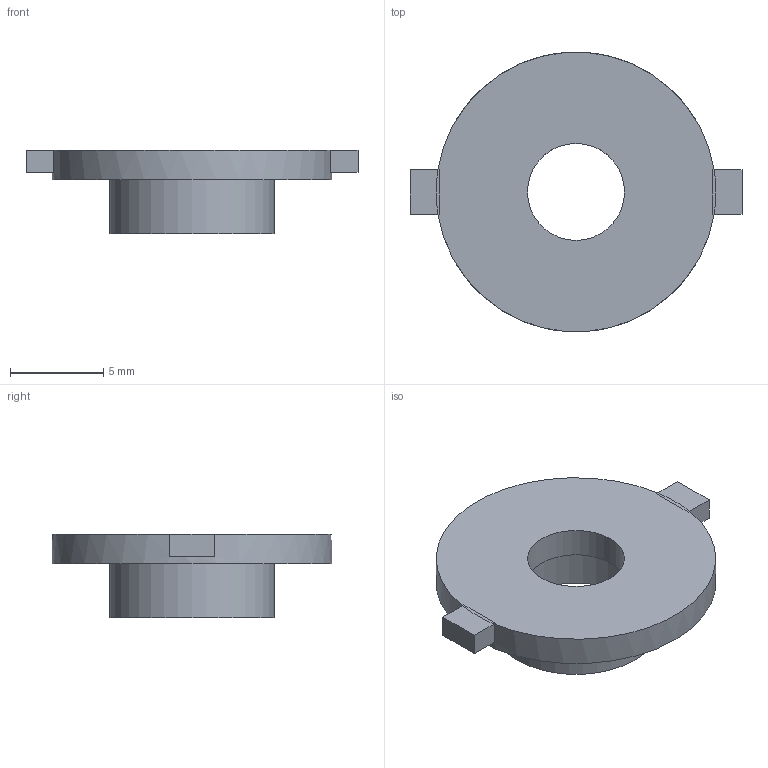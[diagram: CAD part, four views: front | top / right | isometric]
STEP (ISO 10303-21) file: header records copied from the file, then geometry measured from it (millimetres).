
FILE_DESCRIPTION(('Open CASCADE Model'),'2;1');
FILE_NAME('Open CASCADE Shape Model','2026-09-24T17:42:53',('Author'),( 'Open CASCADE'),'Open CASCADE STEP processor 7.8','Open CASCADE 7.8' ,'Unknown');
FILE_SCHEMA(('AUTOMOTIVE_DESIGN { 1 0 10303 214 1 1 1 1 }'));
Length unit declared in the file: millimetre
Products named in the file (1): Open CASCADE STEP translator 7.8 38
Bounding box: 17.8 x 15 x 4.5 mm (x, y, z)
Volume: 281.7 mm3; surface area: 587.9 mm2
Topology: 1 solids, 1 shells, 20 faces, 45 edges, 29 vertices
Faces by surface type: plane 16, cylinder 4
Full cylindrical faces by diameter (mm): 5.2 x1, 8.16 x1, 8.8 x1, 15 x1
Entity records: 1151 total; most frequent: CARTESIAN_POINT 193, DIRECTION 184, LINE 94, VECTOR 94, ORIENTED_EDGE 90, PCURVE 90, DEFINITIONAL_REPRESENTATION 90, EDGE_CURVE 45
